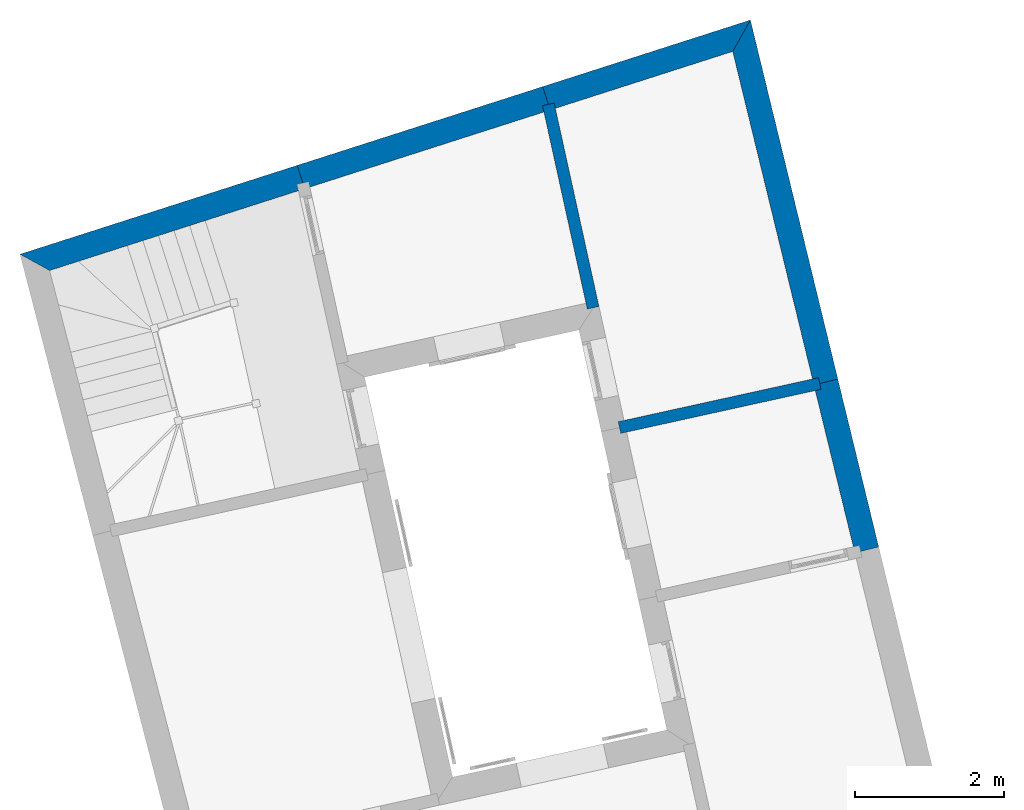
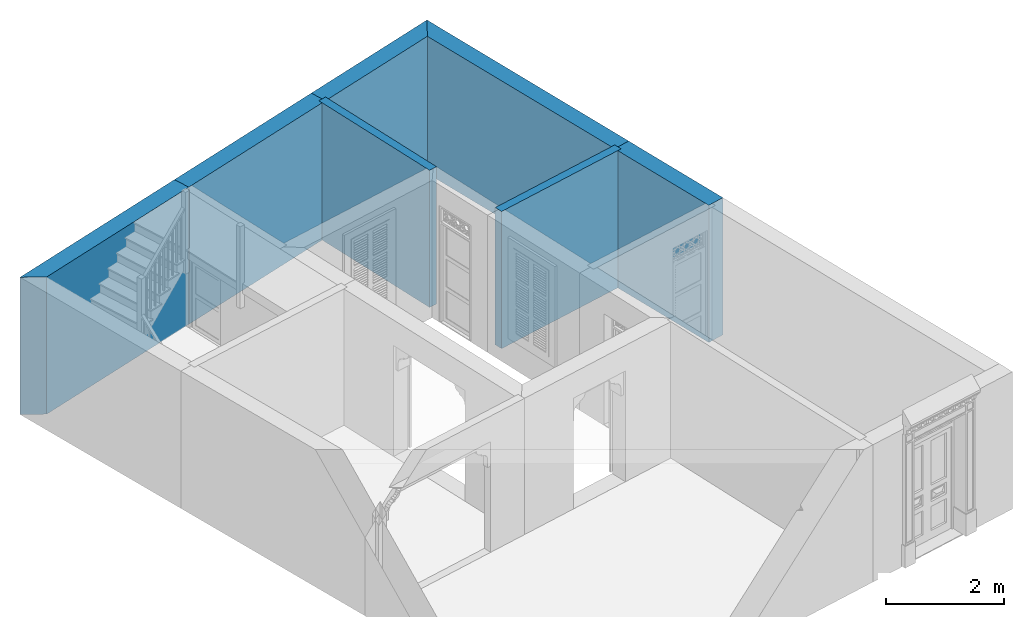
# One storey, part 14 of 14: 7 walls.
"""IFC4 building model written with IfcOpenShell, lengths in metres."""

from ifc_helpers import new_model, si_unit, frame, origin_with_axes, place, context, subcontext, project, spatial, polyline, outline, extrude, material, layer, layer_set, layer_usage, type_object, element, save


model = new_model("IFC4")

# Units and contexts
model_context = context("Model", 3, world=origin_with_axes())
body_context = subcontext(model_context, "Body", "Model", "MODEL_VIEW")
ifc_project = project(units=[si_unit("PLANEANGLEUNIT", "RADIAN"), si_unit("MASSUNIT", "GRAM", prefix="KILO"), si_unit("FORCEUNIT", "NEWTON", prefix="KILO"), si_unit("LENGTHUNIT", "METRE"), si_unit("AREAUNIT", "SQUARE_METRE"), si_unit("VOLUMEUNIT", "CUBIC_METRE")], contexts=[model_context, model_context])

# Site, building, storey
site_placement = place(None, origin_with_axes())
site = spatial("IfcSite", under=ifc_project, at=site_placement, Name="Site plot-2", CompositionType="ELEMENT")
building_placement = place(None, origin_with_axes())
building = spatial("IfcBuilding", under=site, at=building_placement, Name="Building plot-2", CompositionType="ELEMENT")
storey_placement = place(None, origin_with_axes())
storey = spatial("IfcBuildingStorey", under=building, at=storey_placement, Name="plot-2 0", CompositionType="ELEMENT", Elevation=0.0)

# Walls
ifc_material_1 = material(Name="Masonry")
ifc_layer_1 = layer(ifc_material_1, 0.33, ventilated=False)
ifc_layer_set_1 = layer_set([ifc_layer_1], Name="party_0.08_0.25")
ifc_layer_usage_1 = layer_usage(ifc_layer_set_1, "AXIS2", "POSITIVE", -0.25)
wall_type_1 = type_object("IfcWallType", Name="party_0.08_0.25", PredefinedType="SOLIDWALL", material=ifc_layer_set_1)
wall_1_placement = place(storey_placement, frame((19.0788088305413, 10.0467628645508, 0.0), z_axis=(0.0, 0.0, 1.0), x_axis=(-0.236608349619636, 0.971605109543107, 0.0)))
element("IfcWall", 1, at=wall_1_placement, inside=storey, type_object=wall_type_1, material=ifc_layer_usage_1, Name="party", context=body_context, shape_type="SweptSolid", body=[
    extrude(outline(polyline([(-1.02538837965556e-15, 0.0800000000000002), (2.37352689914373e-16, -0.25), (2.32164978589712, -0.249999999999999), (2.32164978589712, 0.0799999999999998), (-1.02538837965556e-15, 0.0800000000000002)])), origin_with_axes(), (0.0, 0.0, 1.0), 2.85),
])
wall_2_placement = place(storey_placement, frame((18.5294871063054, 12.3024896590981, 0.0), z_axis=(0.0, 0.0, 1.0), x_axis=(-0.236608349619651, 0.971605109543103, 0.0)))
element("IfcWall", 2, at=wall_2_placement, inside=storey, type_object=wall_type_1, material=ifc_layer_usage_1, Name="party", context=body_context, shape_type="SweptSolid", body=[
    extrude(outline(polyline([(1.87007326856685e-15, 0.0799999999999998), (-3.42638329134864e-15, -0.25), (4.96556091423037, -0.249999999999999), (4.61108819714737, 0.0800000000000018), (1.87007326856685e-15, 0.0799999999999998)])), origin_with_axes(), (0.0, 0.0, 1.0), 2.85),
])
wall_3_placement = place(storey_placement, frame((17.4181327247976, 16.8661392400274, 0.0), z_axis=(0.0, 0.0, 1.0), x_axis=(-0.952226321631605, -0.305393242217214, 0.0)))
element("IfcWall", 3, at=wall_3_placement, inside=storey, type_object=wall_type_1, material=ifc_layer_usage_1, Name="party", context=body_context, shape_type="SweptSolid", body=[
    extrude(outline(polyline([(0.08593277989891, 0.0799999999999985), (-0.268539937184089, -0.250000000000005), (2.66180211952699, -0.249999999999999), (2.661802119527, 0.0799999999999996), (0.08593277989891, 0.0799999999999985)])), origin_with_axes(), (0.0, 0.0, 1.0), 2.85),
])
wall_4_placement = place(storey_placement, frame((14.8834946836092, 16.0532428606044, 0.0), z_axis=(0.0, 0.0, 1.0), x_axis=(-0.952226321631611, -0.305393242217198, 0.0)))
element("IfcWall", 4, at=wall_4_placement, inside=storey, type_object=wall_type_1, material=ifc_layer_usage_1, Name="party", context=body_context, shape_type="SweptSolid", body=[
    extrude(outline(polyline([(-1.00945559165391e-15, 0.0800000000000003), (4.67824478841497e-15, -0.249999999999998), (3.46416767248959, -0.25), (3.46416767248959, 0.0800000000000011), (-1.00945559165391e-15, 0.0800000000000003)])), origin_with_axes(), (0.0, 0.0, 1.0), 2.85),
])
wall_5_placement = place(storey_placement, frame((11.5848230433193, 14.9953094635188, 0.0), z_axis=(0.0, 0.0, 1.0), x_axis=(-0.952226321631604, -0.30539324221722, 0.0)))
element("IfcWall", 5, at=wall_5_placement, inside=storey, type_object=wall_type_1, material=ifc_layer_usage_1, Name="party", context=body_context, shape_type="SweptSolid", body=[
    extrude(outline(polyline([(2.54325808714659e-15, 0.0799999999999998), (-5.64682934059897e-15, -0.250000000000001), (3.91051789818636, -0.250000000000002), (3.59885254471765, 0.0800000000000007), (2.54325808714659e-15, 0.0799999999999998)])), origin_with_axes(), (0.0, 0.0, 1.0), 2.85),
])
ifc_material_2 = material(Name="Masonry")
ifc_layer_2 = layer(ifc_material_2, 0.16, ventilated=False)
ifc_layer_set_2 = layer_set([ifc_layer_2], Name="interior_0.08_0.08")
ifc_layer_usage_2 = layer_usage(ifc_layer_set_2, "AXIS2", "POSITIVE", -0.08)
wall_type_2 = type_object("IfcWallType", Name="interior_0.08_0.08", PredefinedType="SOLIDWALL", material=ifc_layer_set_2)
wall_6_placement = place(storey_placement, frame((15.4847400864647, 13.3196034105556, 0.0), z_axis=(0.0, 0.0, 1.0), x_axis=(-0.214808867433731, 0.976656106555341, 0.0)))
element("IfcWall", 6, at=wall_6_placement, inside=storey, type_object=wall_type_2, material=ifc_layer_usage_2, Name="interior", context=body_context, shape_type="SweptSolid", body=[
    extrude(outline(polyline([(7.15441322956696e-16, 0.0800000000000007), (-7.05644148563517e-16, -0.0800000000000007), (2.79897850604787, -0.0800000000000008), (2.79897850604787, 0.0800000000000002), (7.15441322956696e-16, 0.0800000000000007)])), origin_with_axes(), (0.0, 0.0, 1.0), 2.85),
])
wall_7_placement = place(storey_placement, frame((18.5294871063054, 12.3024896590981, 0.0), z_axis=(0.0, 0.0, 1.0), x_axis=(-0.976656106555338, -0.214808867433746, 0.0)))
element("IfcWall", 7, at=wall_7_placement, inside=storey, type_object=wall_type_2, material=ifc_layer_usage_2, Name="interior", context=body_context, shape_type="SweptSolid", body=[
    extrude(outline(polyline([(1.47744398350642e-15, 0.079999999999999), (-1.5050047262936e-15, -0.079999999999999), (2.75518571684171, -0.08), (2.75518571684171, 0.0799999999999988), (1.47744398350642e-15, 0.079999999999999)])), origin_with_axes(), (0.0, 0.0, 1.0), 2.85),
])

save(model, "model.ifc")
